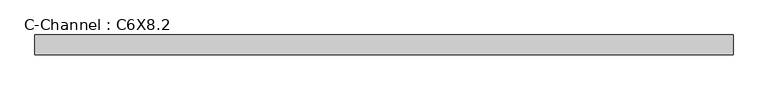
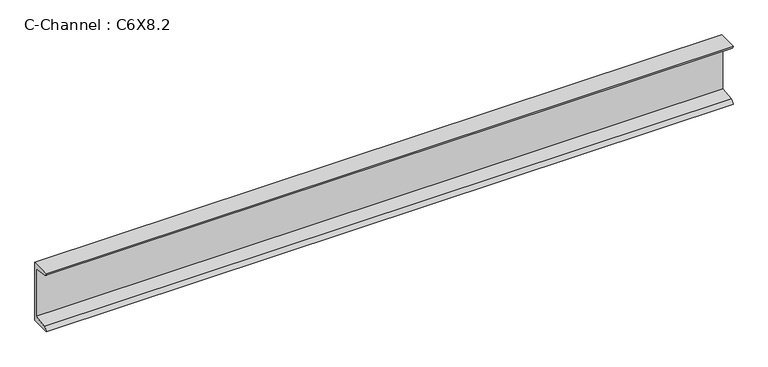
"""IFC4 building model written with IfcOpenShell, lengths in millimetres: beam geometry, C-Channel : C6X8.2."""

from ifc_helpers import new_model, si_unit, point, frame, frame_2d, origin, place, context, project, spatial, polyline, circle_curve, trimmed, segment, composite_curve, outline, extrude, source, transform, mapped, element, save


def c_channel_c6x8_2_cf8d55a1(model_context):
    return source(origin(), model_context, "Body", "SweptSolid", [
        extrude(outline(composite_curve([segment(polyline([(13.0048, 76.2), (13.0048, -76.2), (-35.7632, -76.2)]), True, "CONTINUOUS"), segment(trimmed(circle_curve(frame_2d((-27.051, -76.2)), 8.7122), [point((-35.7632, -76.2))], [point((-27.051, -67.4878))], False, "CARTESIAN"), True, "CONTINUOUS"), segment(polyline([(-27.051, -67.4878), (7.9248, -61.9481775), (7.9248, 61.9481775), (-27.051, 67.4878)]), True, "CONTINUOUS"), segment(trimmed(circle_curve(frame_2d((-27.051, 76.2)), 8.7122), [point((-27.051, 67.4878))], [point((-35.7632, 76.2))], False, "CARTESIAN"), True, "CONTINUOUS"), segment(polyline([(-35.7632, 76.2), (13.0048, 76.2)]), True, "CONTINUOUS")], self_intersect=False)), frame((-790.6798437, 0.0, 0.0), z_axis=(1.0, 0.0, 0.0), x_axis=(0.0, 1.0, 0.0)), (0.0, 0.0, 1.0), 1705.8473048),
    ])


if __name__ == "__main__":
    model = new_model("IFC4")
    model_context = context("Model", 3, world=origin())
    ifc_project = project(units=[si_unit("LENGTHUNIT", "METRE", prefix="MILLI")], contexts=[model_context])
    site = spatial("IfcSite", under=ifc_project)
    building = spatial("IfcBuilding", under=site)
    placement = place(None, origin())
    c_channel_c6x8_2_shape = c_channel_c6x8_2_cf8d55a1(model_context)
    element("IfcBeam", 1, ObjectType="C-Channel : C6X8.2", at=placement, inside=building, context=model_context, shape_type="MappedRepresentation", body=[
        mapped(c_channel_c6x8_2_shape, transform((0.0, 0.0, 0.0), x_axis=(1.0, 0.0, 0.0), y_axis=(0.0, 1.0, 0.0), z_axis=(0.0, 0.0, 1.0))),
    ])
    save(model, "model.ifc")
